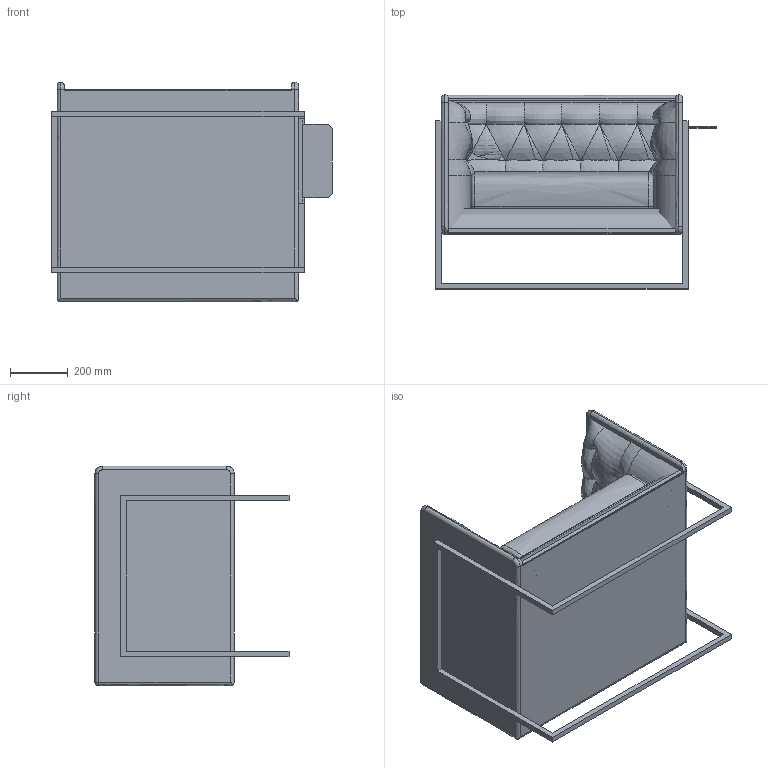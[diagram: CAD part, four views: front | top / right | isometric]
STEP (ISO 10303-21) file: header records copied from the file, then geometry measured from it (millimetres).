
FILE_DESCRIPTION (( 'STEP AP214' ), '1' );
FILE_NAME ('ASMB_DRAFT_JL CLUB CHAIR_8-NOV-21.STEP', '2021-11-08T15:29:38', ( '' ), ( '' ), 'SwSTEP 2.0', 'SolidWorks 2021', '' );
FILE_SCHEMA (( 'AUTOMOTIVE_DESIGN' ));
Length unit declared in the file: millimetre
Products named in the file (1): ASMB_DRAFT_JL CLUB CHAIR_8-NOV-21
Bounding box: 974.77 x 673.1 x 762 mm (x, y, z)
Surface area: 4944570.6 mm2 (no closed solid volume)
Topology: 0 solids, 5 shells, 235 faces, 595 edges, 339 vertices
Faces by surface type: bspline 235
Entity records: 52359 total; most frequent: CARTESIAN_POINT 48358, ORIENTED_EDGE 1072, EDGE_CURVE 571, B_SPLINE_CURVE_WITH_KNOTS 503, VERTEX_POINT 339, EDGE_LOOP 241, ADVANCED_FACE 235, FACE_OUTER_BOUND 235
